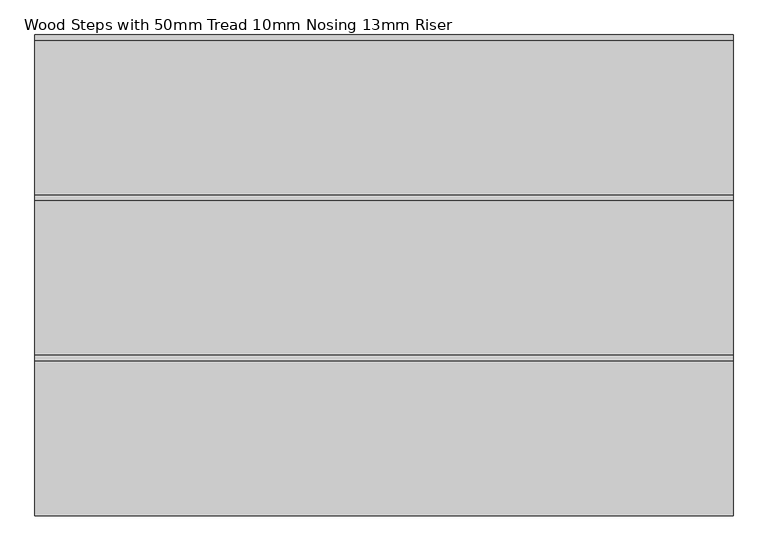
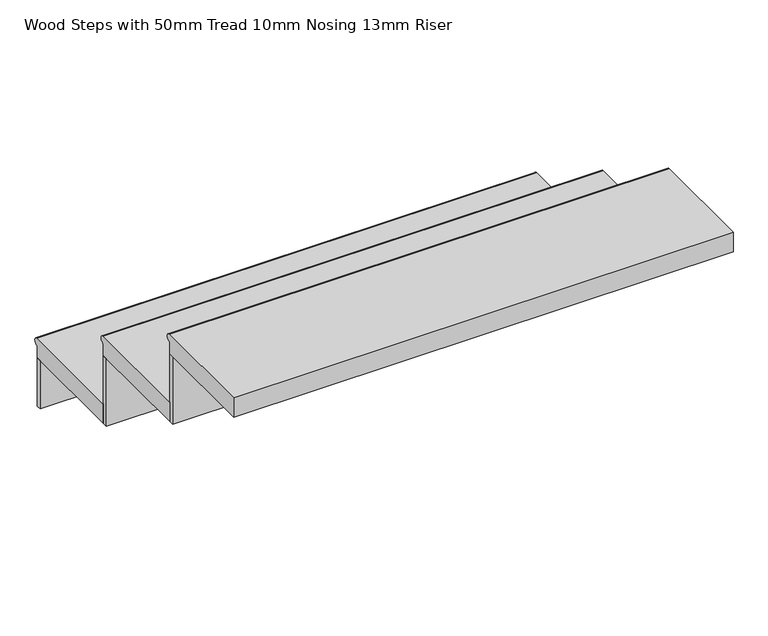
"""IFC4 building model written with IfcOpenShell, lengths in millimetres: stair flight geometry, Wood Steps with 50mm Tread 10mm Nosing 13mm Riser."""

from ifc_helpers import new_model, si_unit, point, frame, frame_2d, origin, place, context, project, spatial, polyline, circle_curve, trimmed, segment, composite_curve, outline, extrude, source, transform, mapped, element, save


def wood_steps_with_50mm_tread_10mm_nosing_13mm_riser_7044c9df(model_context):
    return source(origin(), model_context, "Body", "SweptSolid", [
        extrude(outline(composite_curve([segment(polyline([(5388.5604898, -6825.0), (5668.5604898, -6825.0)]), True, "CONTINUOUS"), segment(trimmed(circle_curve(frame_2d((5668.5604898, -6835.0)), 10.0), [point((5668.5604898, -6825.0))], [point((5668.5604898, -6845.0))], False, "CARTESIAN"), True, "CONTINUOUS"), segment(polyline([(5668.5604898, -6845.0), (5668.5604898, -6875.0), (5388.5604898, -6875.0), (5388.5604898, -6825.0)]), True, "CONTINUOUS")], self_intersect=False)), frame((2496.701563, 0.0, 0.0), z_axis=(1.0, 0.0, 0.0), x_axis=(0.0, 1.0, 0.0)), (0.0, 0.0, 1.0), 1220.0),
        extrude(outline(polyline([(2496.701563, 5656.0604898), (2496.701563, 5668.5604898), (3716.701563, 5668.5604898), (3716.701563, 5656.0604898), (2496.701563, 5656.0604898)])), frame((0.0, 0.0, -7000.0), z_axis=(0.0, 0.0, 1.0), x_axis=(1.0, 0.0, 0.0)), (0.0, 0.0, 1.0), 125.0),
        extrude(outline(composite_curve([segment(polyline([(5108.5604898, -6650.0), (5388.5604898, -6650.0)]), True, "CONTINUOUS"), segment(trimmed(circle_curve(frame_2d((5388.5604898, -6660.0)), 10.0), [point((5388.5604898, -6650.0))], [point((5388.5604898, -6670.0))], False, "CARTESIAN"), True, "CONTINUOUS"), segment(polyline([(5388.5604898, -6670.0), (5388.5604898, -6700.0), (5108.5604898, -6700.0), (5108.5604898, -6650.0)]), True, "CONTINUOUS")], self_intersect=False)), frame((2496.701563, 0.0, 0.0), z_axis=(1.0, 0.0, 0.0), x_axis=(0.0, 1.0, 0.0)), (0.0, 0.0, 1.0), 1220.0),
        extrude(outline(polyline([(2496.701563, 5376.0604898), (2496.701563, 5388.5604898), (3716.701563, 5388.5604898), (3716.701563, 5376.0604898), (2496.701563, 5376.0604898)])), frame((0.0, 0.0, -6875.0), z_axis=(0.0, 0.0, 1.0), x_axis=(1.0, 0.0, 0.0)), (0.0, 0.0, 1.0), 175.0),
        extrude(outline(composite_curve([segment(polyline([(4838.5604898, -6475.0), (5108.5604898, -6475.0)]), True, "CONTINUOUS"), segment(trimmed(circle_curve(frame_2d((5108.5604898, -6485.0)), 10.0), [point((5108.5604898, -6475.0))], [point((5108.5604898, -6495.0))], False, "CARTESIAN"), True, "CONTINUOUS"), segment(polyline([(5108.5604898, -6495.0), (5108.5604898, -6525.0), (4838.5604898, -6525.0), (4838.5604898, -6475.0)]), True, "CONTINUOUS")], self_intersect=False)), frame((2496.701563, 0.0, 0.0), z_axis=(1.0, 0.0, 0.0), x_axis=(0.0, 1.0, 0.0)), (0.0, 0.0, 1.0), 1220.0),
        extrude(outline(polyline([(2496.701563, 5096.0604898), (2496.701563, 5108.5604898), (3716.701563, 5108.5604898), (3716.701563, 5096.0604898), (2496.701563, 5096.0604898)])), frame((0.0, 0.0, -6700.0), z_axis=(0.0, 0.0, 1.0), x_axis=(1.0, 0.0, 0.0)), (0.0, 0.0, 1.0), 175.0),
    ])


if __name__ == "__main__":
    model = new_model("IFC4")
    model_context = context("Model", 3, world=origin())
    ifc_project = project(units=[si_unit("LENGTHUNIT", "METRE", prefix="MILLI")], contexts=[model_context])
    site = spatial("IfcSite", under=ifc_project)
    building = spatial("IfcBuilding", under=site)
    placement = place(None, origin())
    wood_steps_with_50mm_tread_10mm_nosing_13mm_riser_shape = wood_steps_with_50mm_tread_10mm_nosing_13mm_riser_7044c9df(model_context)
    element("IfcStairFlight", 1, ObjectType="Wood Steps with 50mm Tread 10mm Nosing 13mm Riser", at=placement, inside=building, context=model_context, shape_type="MappedRepresentation", body=[
        mapped(wood_steps_with_50mm_tread_10mm_nosing_13mm_riser_shape, transform((0.0, 0.0, 0.0), x_axis=(1.0, 0.0, 0.0), y_axis=(0.0, 1.0, 0.0), z_axis=(0.0, 0.0, 1.0))),
    ])
    save(model, "model.ifc")
